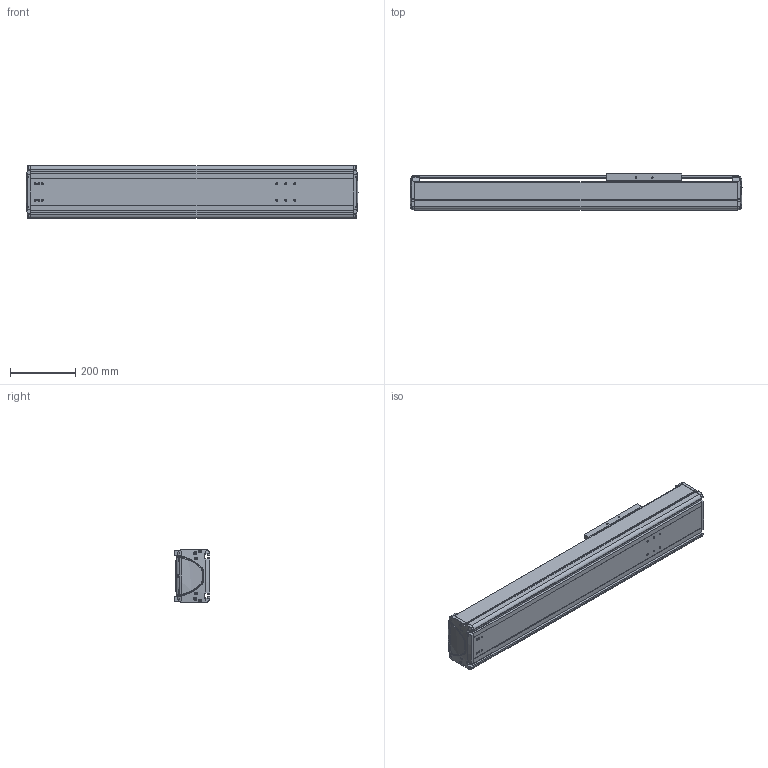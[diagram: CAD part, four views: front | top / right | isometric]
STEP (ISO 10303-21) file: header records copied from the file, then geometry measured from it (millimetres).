
FILE_DESCRIPTION((''),'2;1');
FILE_NAME('BE50G-ST-L_B-55_IGS_PRT','2017-06-18T',(' '),(''),'PRO/ENGINEER BY PARAMETRIC TECHNOLOGY CORPORATION, 2015030','PRO/ENGINEER BY PARAMETRIC TECHNOLOGY CORPORATION, 2015030','');
FILE_SCHEMA(('CONFIG_CONTROL_DESIGN'));
Length unit declared in the file: millimetre
Products named in the file (1): BE50G-ST-L_B-55_IGS_PRT
Bounding box: 1014.98 x 110 x 160 mm (x, y, z)
Volume: 4428324.3 mm3; surface area: 1622001.8 mm2
Topology: 3 solids, 86 shells, 1564 faces, 4170 edges, 2681 vertices
Faces by surface type: cylinder 684, plane 585, bspline 102, torus 87, cone 66, sphere 40
Entity records: 54128 total; most frequent: CARTESIAN_POINT 15687, ORIENTED_EDGE 7912, DIRECTION 7858, EDGE_CURVE 4122, AXIS2_PLACEMENT_3D 2928, VERTEX_POINT 2671, VECTOR 2002, LINE 2002
